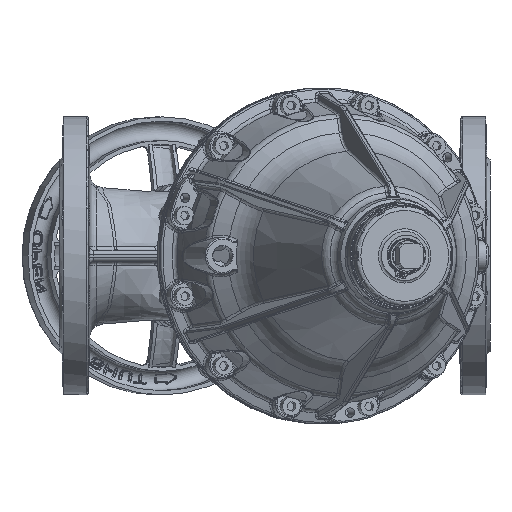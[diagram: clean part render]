
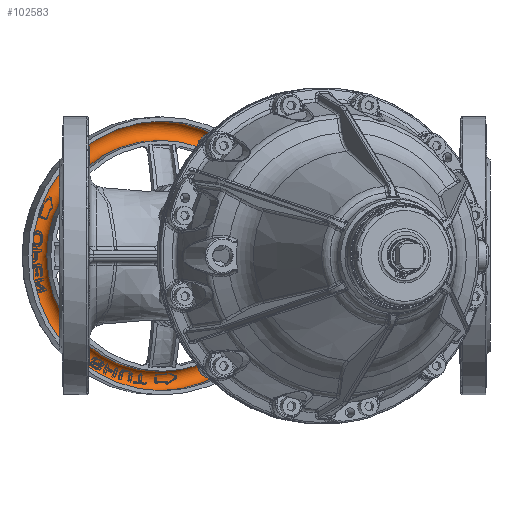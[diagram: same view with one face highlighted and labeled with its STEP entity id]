
A CAD part, front view. The second image highlights one B-rep face of the part: STEP entity #102583.
In plain terms, the highlighted toroidal (fillet/blend) face has major radius 90 mm and minor radius 7 mm.
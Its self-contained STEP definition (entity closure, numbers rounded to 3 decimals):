
#1902 = CIRCLE ( 'NONE', #1928, 97. ) ;
#1928 = AXIS2_PLACEMENT_3D ( 'NONE', #1985, #1983, #1981 ) ;
#1981 = DIRECTION ( 'NONE',  ( 0., 0., -1. ) ) ;
#1983 = DIRECTION ( 'NONE',  ( 0.259, -0.966, 0. ) ) ;
#1985 = CARTESIAN_POINT ( 'NONE',  ( -75.63, 282.253, 0. ) ) ;
#9577 = EDGE_CURVE ( 'NONE', #160717, #160717, #47807, .T. ) ;
#47805 = CARTESIAN_POINT ( 'NONE',  ( -75.63, 282.253, 0. ) ) ;
#47807 = CIRCLE ( 'NONE', #47837, 83. ) ;
#47827 = DIRECTION ( 'NONE',  ( 0., 0., -1. ) ) ;
#47828 = DIRECTION ( 'NONE',  ( 0.259, -0.966, 0. ) ) ;
#47837 = AXIS2_PLACEMENT_3D ( 'NONE', #47805, #47828, #47827 ) ;
#96777 = TOROIDAL_SURFACE ( 'NONE', #96784, 90., 7. ) ;
#96784 = AXIS2_PLACEMENT_3D ( 'NONE', #96845, #96844, #96843 ) ;
#96789 = FACE_OUTER_BOUND ( 'NONE', #102322, .T. ) ;
#96843 = DIRECTION ( 'NONE',  ( 0., 0., -1. ) ) ;
#96844 = DIRECTION ( 'NONE',  ( 0.259, -0.966, 0. ) ) ;
#96845 = CARTESIAN_POINT ( 'NONE',  ( -75.63, 282.253, 0. ) ) ;
#96861 = FACE_OUTER_BOUND ( 'NONE', #102649, .T. ) ;
#102322 = EDGE_LOOP ( 'NONE', ( #102928 ) ) ;
#102583 = ADVANCED_FACE ( 'NONE', ( #96861, #96789 ), #96777, .F. ) ;
#102649 = EDGE_LOOP ( 'NONE', ( #102977 ) ) ;
#102928 = ORIENTED_EDGE ( 'NONE', *, *, #102992, .T. ) ;
#102977 = ORIENTED_EDGE ( 'NONE', *, *, #9577, .F. ) ;
#102992 = EDGE_CURVE ( 'NONE', #161577, #161577, #1902, .T. ) ;
#160717 = VERTEX_POINT ( 'NONE', #160933 ) ;
#160933 = CARTESIAN_POINT ( 'NONE',  ( -75.63, 282.253, -83. ) ) ;
#161570 = CARTESIAN_POINT ( 'NONE',  ( -75.63, 282.253, -97. ) ) ;
#161577 = VERTEX_POINT ( 'NONE', #161570 ) ;
